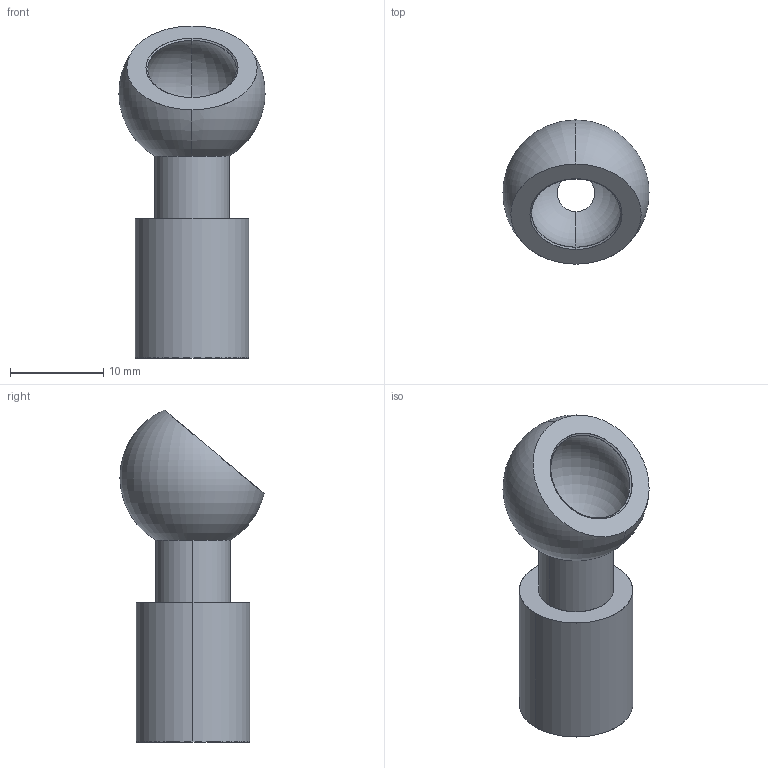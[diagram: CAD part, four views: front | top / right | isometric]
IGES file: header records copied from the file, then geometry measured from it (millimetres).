
Start section: SolidWorks IGES file using analytic representation for surfaces
Global section: file name: C:\Users\liam_\OneDrive\Documents\WORK\Work for WixRoyd\Job Files\J-00025 - Matt Davis CAD - 20191106\04. CAD Drawings\Wixroyd20191106\20056_v2\20056_v2_20191117_IGES\20056.W2124.igs; native system: SolidWorks 2017; preprocessor: SolidWorks 2017; author: liam_; date: 191117.213951; units: millimetre
Bounding box: 15.7 x 15.49 x 35.67 mm (x, y, z)
Surface area: 2160 mm2 (no closed solid volume)
Topology: 0 solids, 0 shells, 20 faces, 395 edges, 395 vertices
Faces by surface type: revolution 16, bspline 4
